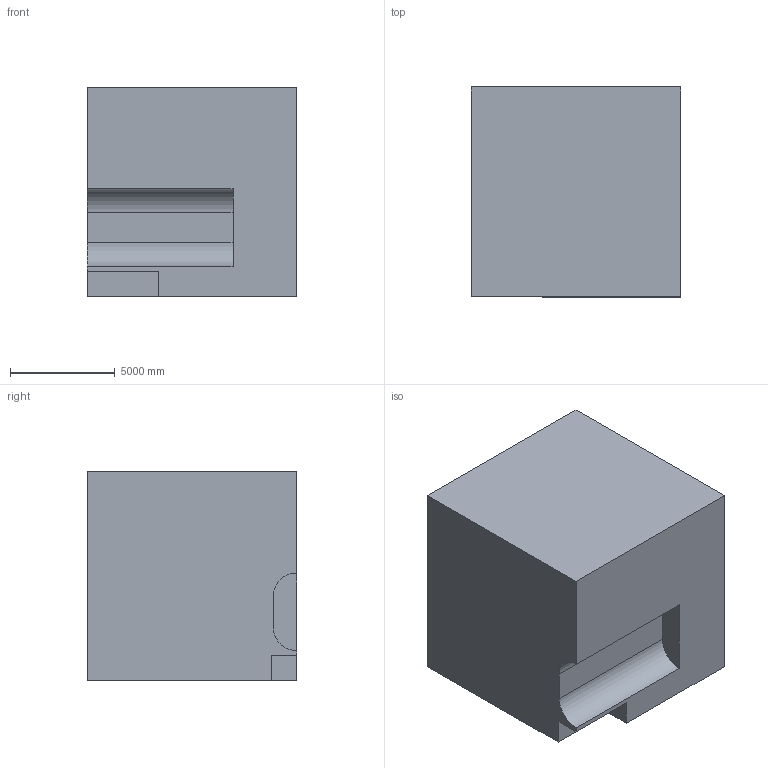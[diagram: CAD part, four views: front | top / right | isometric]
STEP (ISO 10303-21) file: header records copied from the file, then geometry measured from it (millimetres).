
FILE_DESCRIPTION (( 'STEP AP203' ), '1' );
FILE_NAME ('430.STEP', '2022-07-29T11:15:00', ( 'user' ), ( '' ), 'SwSTEP 2.0', 'SolidWorks 2021', '' );
FILE_SCHEMA (( 'CONFIG_CONTROL_DESIGN' ));
Length unit declared in the file: centimetre
Products named in the file (1): 430
Bounding box: 10000 x 10000 x 10000 mm (x, y, z)
Volume: 918679060387.2 mm3; surface area: 670313681.3 mm2
Topology: 1 solids, 1 shells, 30 faces, 78 edges, 52 vertices
Faces by surface type: plane 28, cylinder 2
Entity records: 983 total; most frequent: CARTESIAN_POINT 161, ORIENTED_EDGE 156, DIRECTION 144, EDGE_CURVE 78, VECTOR 74, LINE 74, VERTEX_POINT 52, AXIS2_PLACEMENT_3D 35
